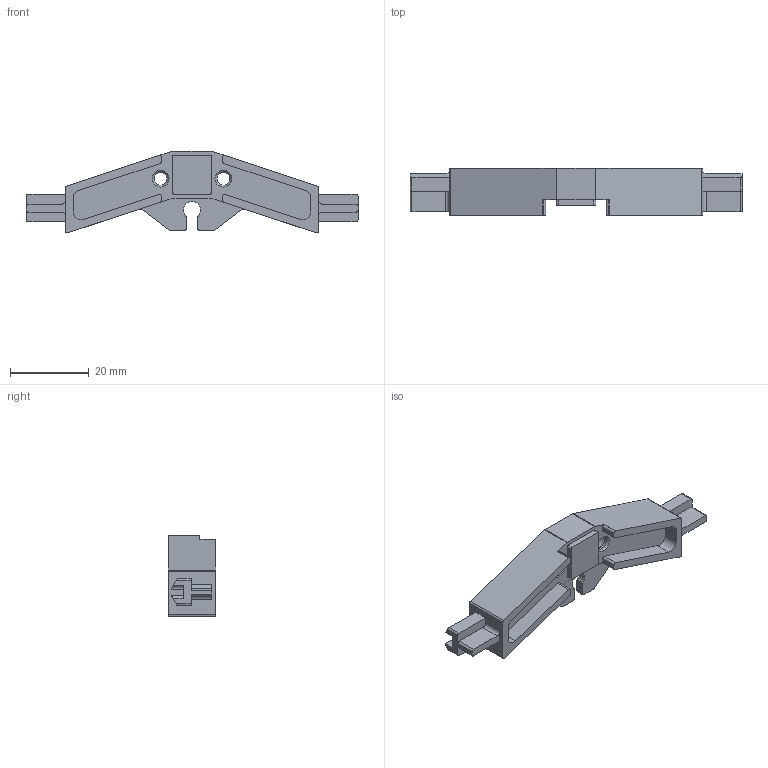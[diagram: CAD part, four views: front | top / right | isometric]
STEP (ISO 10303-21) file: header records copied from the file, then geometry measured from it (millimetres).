
FILE_DESCRIPTION (( 'STEP AP203' ), '1' );
FILE_NAME ('Ersatzteil_Brühgruppe.STEP', '2018-11-22T09:46:30', ( '' ), ( '' ), 'SwSTEP 2.0', 'SolidWorks 2018', '' );
FILE_SCHEMA (( 'CONFIG_CONTROL_DESIGN' ));
Length unit declared in the file: millimetre
Products named in the file (1): Ersatzteil_Brühgruppe
Bounding box: 84.5 x 12 x 20.81 mm (x, y, z)
Volume: 7889.5 mm3; surface area: 5013.6 mm2
Topology: 1 solids, 1 shells, 136 faces, 379 edges, 250 vertices
Faces by surface type: cylinder 64, plane 64, cone 8
Entity records: 4472 total; most frequent: CARTESIAN_POINT 790, DIRECTION 773, ORIENTED_EDGE 758, EDGE_CURVE 379, AXIS2_PLACEMENT_3D 265, VERTEX_POINT 250, VECTOR 243, LINE 243
